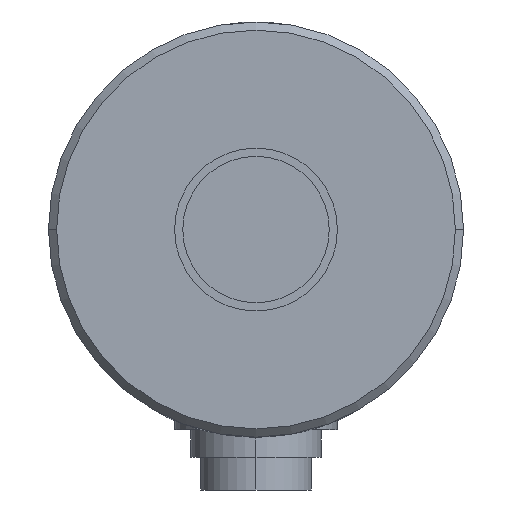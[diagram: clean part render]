
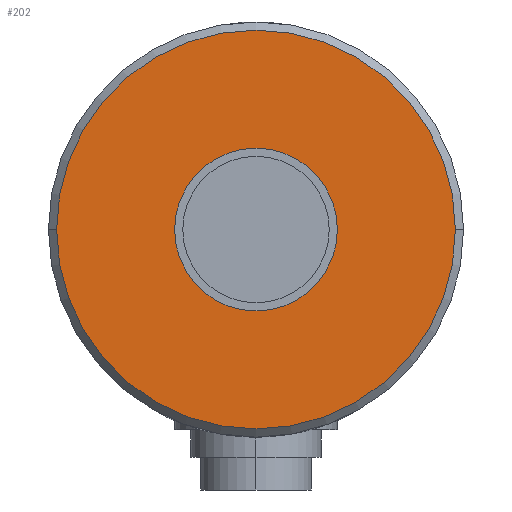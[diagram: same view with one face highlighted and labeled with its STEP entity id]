
A CAD part, left-side view. The second image highlights one B-rep face of the part: STEP entity #202.
In plain terms, the highlighted planar face has unit normal (-1, 0, 0).
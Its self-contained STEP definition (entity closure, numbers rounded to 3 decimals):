
#202=ADVANCED_FACE('',(#415,#416),#417,.T.);
#415=FACE_OUTER_BOUND('',#891,.T.);
#416=FACE_BOUND('',#892,.T.);
#417=PLANE('',#893);
#891=EDGE_LOOP('',(#1369,#1370,#1371));
#892=EDGE_LOOP('',(#1372,#1373));
#893=AXIS2_PLACEMENT_3D('',#1374,#1375,#1376);
#1369=ORIENTED_EDGE('',*,*,#1581,.F.);
#1370=ORIENTED_EDGE('',*,*,#1580,.F.);
#1371=ORIENTED_EDGE('',*,*,#1415,.F.);
#1372=ORIENTED_EDGE('',*,*,#1443,.T.);
#1373=ORIENTED_EDGE('',*,*,#1568,.T.);
#1374=CARTESIAN_POINT('',(-40.,-24.794,-24.794));
#1375=DIRECTION('',(-1.0,0.0,0.0));
#1376=DIRECTION('',(0.0,0.0,1.0));
#1415=EDGE_CURVE('',#1620,#1623,#1624,.T.);
#1443=EDGE_CURVE('',#1664,#1668,#1670,.T.);
#1568=EDGE_CURVE('',#1668,#1664,#1846,.T.);
#1580=EDGE_CURVE('',#1623,#1858,#1859,.T.);
#1581=EDGE_CURVE('',#1858,#1620,#1860,.T.);
#1620=VERTEX_POINT('',#2014);
#1623=VERTEX_POINT('',#2018);
#1624=CIRCLE('',#2019,24.5);
#1664=VERTEX_POINT('',#2131);
#1668=VERTEX_POINT('',#2136);
#1670=CIRCLE('',#2139,10.);
#1846=CIRCLE('',#2419,10.);
#1858=VERTEX_POINT('',#2431);
#1859=CIRCLE('',#2432,24.5);
#1860=CIRCLE('',#2433,24.5);
#2014=CARTESIAN_POINT('',(-40.0,24.5,0.));
#2018=CARTESIAN_POINT('',(-40.0,-24.5,0.));
#2019=AXIS2_PLACEMENT_3D('',#2452,#2453,#2454);
#2131=CARTESIAN_POINT('',(-40.,0.0,-10.));
#2136=CARTESIAN_POINT('',(-40.,0.,10.));
#2139=AXIS2_PLACEMENT_3D('',#2491,#2492,#2493);
#2419=AXIS2_PLACEMENT_3D('',#2673,#2674,#2675);
#2431=CARTESIAN_POINT('',(-40.,0.0,-24.5));
#2432=AXIS2_PLACEMENT_3D('',#2688,#2689,#2690);
#2433=AXIS2_PLACEMENT_3D('',#2691,#2692,#2693);
#2452=CARTESIAN_POINT('',(-40.0,0.,0.));
#2453=DIRECTION('',(1.0,0.0,0.0));
#2454=DIRECTION('',(0.0,1.0,0.0));
#2491=CARTESIAN_POINT('',(-40.,0.0,0.0));
#2492=DIRECTION('',(1.0,0.0,0.0));
#2493=DIRECTION('',(0.0,0.0,-1.0));
#2673=CARTESIAN_POINT('',(-40.,0.0,0.0));
#2674=DIRECTION('',(1.0,0.0,0.0));
#2675=DIRECTION('',(0.0,0.0,-1.0));
#2688=CARTESIAN_POINT('',(-40.0,0.,0.));
#2689=DIRECTION('',(1.0,0.0,0.0));
#2690=DIRECTION('',(0.0,1.0,0.0));
#2691=CARTESIAN_POINT('',(-40.0,0.,0.));
#2692=DIRECTION('',(1.0,0.0,0.0));
#2693=DIRECTION('',(0.0,1.0,0.0));
